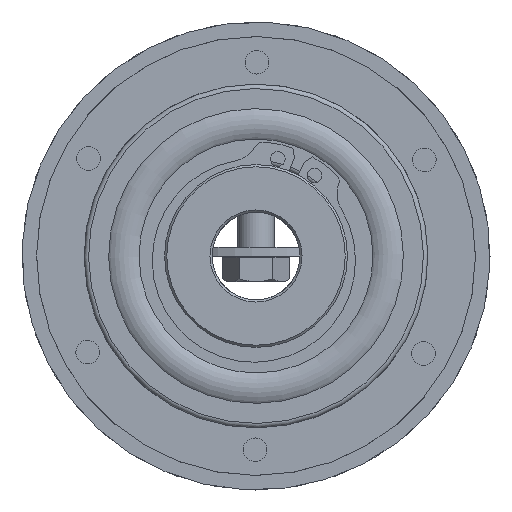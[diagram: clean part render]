
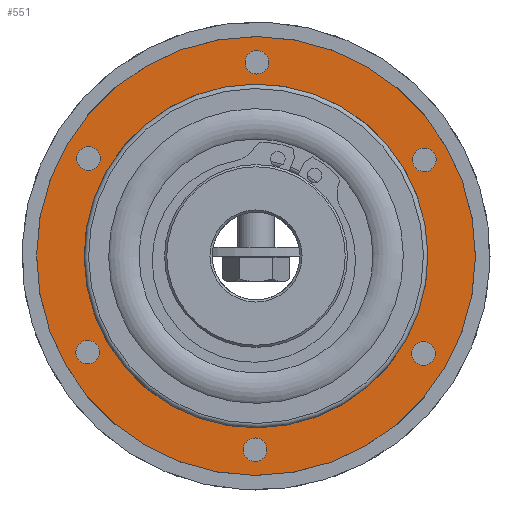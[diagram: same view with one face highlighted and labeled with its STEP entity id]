
A CAD part, left-side view. The second image highlights one B-rep face of the part: STEP entity #551.
In plain terms, the highlighted planar face has unit normal (-1, 0, 0).
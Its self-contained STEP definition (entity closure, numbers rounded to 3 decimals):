
#551 = ADVANCED_FACE( '', ( #1024, #1025, #1026, #1027, #1028, #1029, #1030, #1031 ), #1032, .F. );
#1024 = FACE_OUTER_BOUND( '', #1488, .T. );
#1025 = FACE_BOUND( '', #1489, .T. );
#1026 = FACE_BOUND( '', #1490, .T. );
#1027 = FACE_BOUND( '', #1491, .T. );
#1028 = FACE_BOUND( '', #1492, .T. );
#1029 = FACE_BOUND( '', #1493, .T. );
#1030 = FACE_BOUND( '', #1494, .T. );
#1031 = FACE_BOUND( '', #1495, .T. );
#1032 = PLANE( '', #1496 );
#1488 = EDGE_LOOP( '', ( #2460 ) );
#1489 = EDGE_LOOP( '', ( #2461 ) );
#1490 = EDGE_LOOP( '', ( #2462 ) );
#1491 = EDGE_LOOP( '', ( #2463 ) );
#1492 = EDGE_LOOP( '', ( #2464 ) );
#1493 = EDGE_LOOP( '', ( #2465 ) );
#1494 = EDGE_LOOP( '', ( #2466 ) );
#1495 = EDGE_LOOP( '', ( #2467 ) );
#1496 = AXIS2_PLACEMENT_3D( '', #2468, #2469, #2470 );
#2460 = ORIENTED_EDGE( '', *, *, #2775, .T. );
#2461 = ORIENTED_EDGE( '', *, *, #2780, .T. );
#2462 = ORIENTED_EDGE( '', *, *, #2781, .T. );
#2463 = ORIENTED_EDGE( '', *, *, #2782, .T. );
#2464 = ORIENTED_EDGE( '', *, *, #2783, .T. );
#2465 = ORIENTED_EDGE( '', *, *, #2776, .T. );
#2466 = ORIENTED_EDGE( '', *, *, #2784, .T. );
#2467 = ORIENTED_EDGE( '', *, *, #2778, .F. );
#2468 = CARTESIAN_POINT( '', ( -11.15, 30., 0. ) );
#2469 = DIRECTION( '', ( 1., 0., 0. ) );
#2470 = DIRECTION( '', ( 0., 1., 0. ) );
#2775 = EDGE_CURVE( '', #3233, #3233, #3234, .T. );
#2776 = EDGE_CURVE( '', #3235, #3235, #3236, .T. );
#2778 = EDGE_CURVE( '', #3239, #3239, #3240, .T. );
#2780 = EDGE_CURVE( '', #3243, #3243, #3244, .T. );
#2781 = EDGE_CURVE( '', #3245, #3245, #3246, .T. );
#2782 = EDGE_CURVE( '', #3247, #3247, #3248, .T. );
#2783 = EDGE_CURVE( '', #3249, #3249, #3250, .T. );
#2784 = EDGE_CURVE( '', #3251, #3251, #3252, .T. );
#3233 = VERTEX_POINT( '', #4127 );
#3234 = CIRCLE( '', #4128, 30. );
#3235 = VERTEX_POINT( '', #4129 );
#3236 = CIRCLE( '', #4130, 1.621 );
#3239 = VERTEX_POINT( '', #4133 );
#3240 = CIRCLE( '', #4134, 23.5 );
#3243 = VERTEX_POINT( '', #4137 );
#3244 = CIRCLE( '', #4138, 1.621 );
#3245 = VERTEX_POINT( '', #4139 );
#3246 = CIRCLE( '', #4140, 1.621 );
#3247 = VERTEX_POINT( '', #4141 );
#3248 = CIRCLE( '', #4142, 1.621 );
#3249 = VERTEX_POINT( '', #4143 );
#3250 = CIRCLE( '', #4144, 1.621 );
#3251 = VERTEX_POINT( '', #4145 );
#3252 = CIRCLE( '', #4146, 1.621 );
#4127 = CARTESIAN_POINT( '', ( -11.15, 0., 30. ) );
#4128 = AXIS2_PLACEMENT_3D( '', #4667, #4668, #4669 );
#4129 = CARTESIAN_POINT( '', ( -11.15, -24.354, 14.061 ) );
#4130 = AXIS2_PLACEMENT_3D( '', #4670, #4671, #4672 );
#4133 = CARTESIAN_POINT( '', ( -11.15, 0., 23.5 ) );
#4134 = AXIS2_PLACEMENT_3D( '', #4676, #4677, #4678 );
#4137 = CARTESIAN_POINT( '', ( -11.15, 24.354, 14.061 ) );
#4138 = AXIS2_PLACEMENT_3D( '', #4682, #4683, #4684 );
#4139 = CARTESIAN_POINT( '', ( -11.15, 24.354, -14.061 ) );
#4140 = AXIS2_PLACEMENT_3D( '', #4685, #4686, #4687 );
#4141 = CARTESIAN_POINT( '', ( -11.15, 0., -28.121 ) );
#4142 = AXIS2_PLACEMENT_3D( '', #4688, #4689, #4690 );
#4143 = CARTESIAN_POINT( '', ( -11.15, -24.354, -14.061 ) );
#4144 = AXIS2_PLACEMENT_3D( '', #4691, #4692, #4693 );
#4145 = CARTESIAN_POINT( '', ( -11.15, 0., 28.121 ) );
#4146 = AXIS2_PLACEMENT_3D( '', #4694, #4695, #4696 );
#4667 = CARTESIAN_POINT( '', ( -11.15, 0., 0. ) );
#4668 = DIRECTION( '', ( -1., 0., 0. ) );
#4669 = DIRECTION( '', ( 0., 0., 1. ) );
#4670 = CARTESIAN_POINT( '', ( -11.15, -22.95, 13.25 ) );
#4671 = DIRECTION( '', ( 1., 0., 0. ) );
#4672 = DIRECTION( '', ( 0., -0.866, 0.5 ) );
#4676 = CARTESIAN_POINT( '', ( -11.15, 0., 0. ) );
#4677 = DIRECTION( '', ( -1., 0., 0. ) );
#4678 = DIRECTION( '', ( 0., 0., 1. ) );
#4682 = CARTESIAN_POINT( '', ( -11.15, 22.95, 13.25 ) );
#4683 = DIRECTION( '', ( 1., 0., 0. ) );
#4684 = DIRECTION( '', ( 0., 0.866, 0.5 ) );
#4685 = CARTESIAN_POINT( '', ( -11.15, 22.95, -13.25 ) );
#4686 = DIRECTION( '', ( 1., 0., 0. ) );
#4687 = DIRECTION( '', ( 0., 0.866, -0.5 ) );
#4688 = CARTESIAN_POINT( '', ( -11.15, 0., -26.5 ) );
#4689 = DIRECTION( '', ( 1., 0., 0. ) );
#4690 = DIRECTION( '', ( 0., 0., -1. ) );
#4691 = CARTESIAN_POINT( '', ( -11.15, -22.95, -13.25 ) );
#4692 = DIRECTION( '', ( 1., 0., 0. ) );
#4693 = DIRECTION( '', ( 0., -0.866, -0.5 ) );
#4694 = CARTESIAN_POINT( '', ( -11.15, 0., 26.5 ) );
#4695 = DIRECTION( '', ( 1., 0., 0. ) );
#4696 = DIRECTION( '', ( 0., 0., 1. ) );
